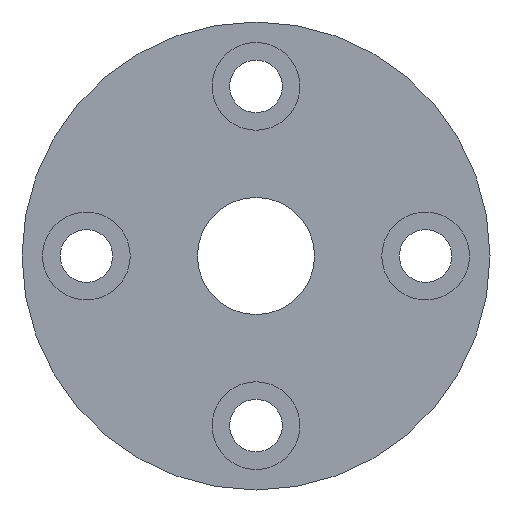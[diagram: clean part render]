
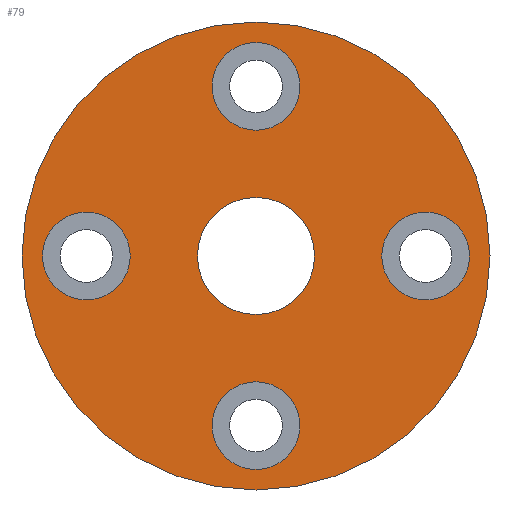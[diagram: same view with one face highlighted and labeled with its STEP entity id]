
A CAD part, left-side view. The second image highlights one B-rep face of the part: STEP entity #79.
In plain terms, the highlighted planar face has unit normal (-1, 0, 0).
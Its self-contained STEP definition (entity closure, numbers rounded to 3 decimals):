
#79 = ADVANCED_FACE( '', ( #110, #111, #112, #113, #114, #115 ), #116, .T. );
#110 = FACE_BOUND( '', #172, .T. );
#111 = FACE_BOUND( '', #173, .T. );
#112 = FACE_BOUND( '', #174, .T. );
#113 = FACE_BOUND( '', #175, .T. );
#114 = FACE_BOUND( '', #176, .T. );
#115 = FACE_OUTER_BOUND( '', #177, .T. );
#116 = PLANE( '', #178 );
#172 = EDGE_LOOP( '', ( #242 ) );
#173 = EDGE_LOOP( '', ( #243 ) );
#174 = EDGE_LOOP( '', ( #244 ) );
#175 = EDGE_LOOP( '', ( #245 ) );
#176 = EDGE_LOOP( '', ( #246 ) );
#177 = EDGE_LOOP( '', ( #247 ) );
#178 = AXIS2_PLACEMENT_3D( '', #248, #249, #250 );
#242 = ORIENTED_EDGE( '', *, *, #324, .T. );
#243 = ORIENTED_EDGE( '', *, *, #325, .T. );
#244 = ORIENTED_EDGE( '', *, *, #326, .T. );
#245 = ORIENTED_EDGE( '', *, *, #327, .T. );
#246 = ORIENTED_EDGE( '', *, *, #328, .T. );
#247 = ORIENTED_EDGE( '', *, *, #329, .F. );
#248 = CARTESIAN_POINT( '', ( 0., 20., 0. ) );
#249 = DIRECTION( '', ( -1., 0., 0. ) );
#250 = DIRECTION( '', ( 0., 0., 1. ) );
#324 = EDGE_CURVE( '', #354, #354, #355, .T. );
#325 = EDGE_CURVE( '', #356, #356, #357, .F. );
#326 = EDGE_CURVE( '', #358, #358, #359, .T. );
#327 = EDGE_CURVE( '', #360, #360, #361, .T. );
#328 = EDGE_CURVE( '', #362, #362, #363, .T. );
#329 = EDGE_CURVE( '', #364, #364, #365, .T. );
#354 = VERTEX_POINT( '', #398 );
#355 = CIRCLE( '', #399, 5. );
#356 = VERTEX_POINT( '', #400 );
#357 = CIRCLE( '', #401, 3.75 );
#358 = VERTEX_POINT( '', #402 );
#359 = CIRCLE( '', #403, 3.75 );
#360 = VERTEX_POINT( '', #404 );
#361 = CIRCLE( '', #405, 3.75 );
#362 = VERTEX_POINT( '', #406 );
#363 = CIRCLE( '', #407, 3.75 );
#364 = VERTEX_POINT( '', #408 );
#365 = CIRCLE( '', #409, 20. );
#398 = CARTESIAN_POINT( '', ( 0., 0., -5. ) );
#399 = AXIS2_PLACEMENT_3D( '', #450, #451, #452 );
#400 = CARTESIAN_POINT( '', ( 0., 14.5, 3.75 ) );
#401 = AXIS2_PLACEMENT_3D( '', #453, #454, #455 );
#402 = CARTESIAN_POINT( '', ( 0., 0., 10.75 ) );
#403 = AXIS2_PLACEMENT_3D( '', #456, #457, #458 );
#404 = CARTESIAN_POINT( '', ( 0., 0., -18.25 ) );
#405 = AXIS2_PLACEMENT_3D( '', #459, #460, #461 );
#406 = CARTESIAN_POINT( '', ( 0., -14.5, -3.75 ) );
#407 = AXIS2_PLACEMENT_3D( '', #462, #463, #464 );
#408 = CARTESIAN_POINT( '', ( 0., 0., -20. ) );
#409 = AXIS2_PLACEMENT_3D( '', #465, #466, #467 );
#450 = CARTESIAN_POINT( '', ( 0., 0., 0. ) );
#451 = DIRECTION( '', ( 1., 0., 0. ) );
#452 = DIRECTION( '', ( 0., 0., -1. ) );
#453 = CARTESIAN_POINT( '', ( 0., 14.5, 0. ) );
#454 = DIRECTION( '', ( -1., 0., 0. ) );
#455 = DIRECTION( '', ( 0., 0., 1. ) );
#456 = CARTESIAN_POINT( '', ( 0., 0., 14.5 ) );
#457 = DIRECTION( '', ( 1., 0., 0. ) );
#458 = DIRECTION( '', ( 0., 0., -1. ) );
#459 = CARTESIAN_POINT( '', ( 0., 0., -14.5 ) );
#460 = DIRECTION( '', ( 1., 0., 0. ) );
#461 = DIRECTION( '', ( 0., 0., -1. ) );
#462 = CARTESIAN_POINT( '', ( 0., -14.5, 0. ) );
#463 = DIRECTION( '', ( 1., 0., 0. ) );
#464 = DIRECTION( '', ( 0., 0., -1. ) );
#465 = CARTESIAN_POINT( '', ( 0., 0., 0. ) );
#466 = DIRECTION( '', ( 1., 0., 0. ) );
#467 = DIRECTION( '', ( 0., 0., -1. ) );
